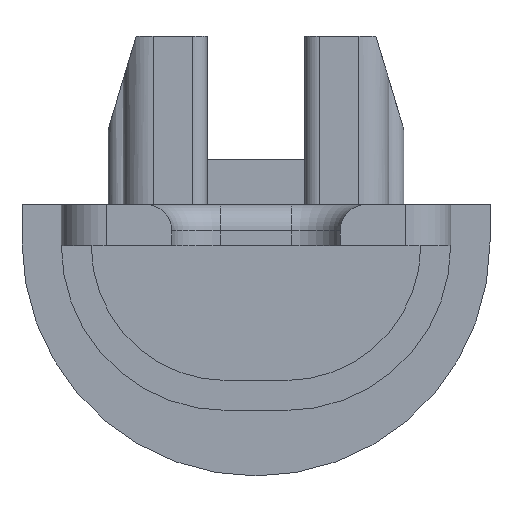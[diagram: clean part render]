
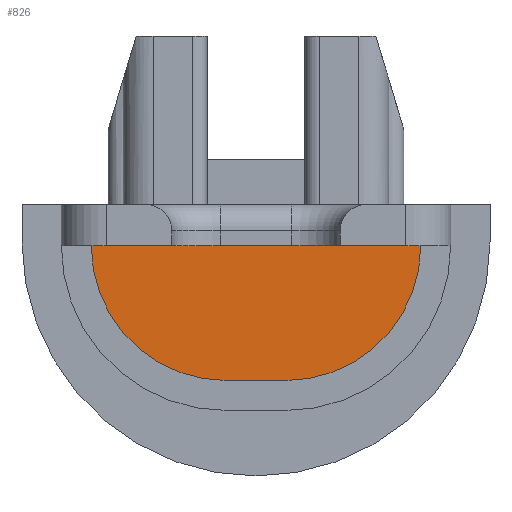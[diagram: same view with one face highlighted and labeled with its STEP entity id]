
A CAD part, front view. The second image highlights one B-rep face of the part: STEP entity #826.
In plain terms, the highlighted planar face has unit normal (0, -1, 0).
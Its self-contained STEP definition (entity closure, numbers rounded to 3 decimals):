
#44 = CARTESIAN_POINT ( 'NONE',  ( 0.8, -0.3, -4.7 ) ) ;
#136 = CIRCLE ( 'NONE', #1459, 3.6 ) ;
#152 = LINE ( 'NONE', #1812, #2170 ) ;
#153 = ORIENTED_EDGE ( 'NONE', *, *, #789, .T. ) ;
#190 = VERTEX_POINT ( 'NONE', #1057 ) ;
#335 = DIRECTION ( 'NONE',  ( -1., 0., 0. ) ) ;
#493 = EDGE_CURVE ( 'NONE', #2145, #190, #136, .T. ) ;
#553 = VECTOR ( 'NONE', #1234, 1000. ) ;
#554 = ORIENTED_EDGE ( 'NONE', *, *, #493, .T. ) ;
#597 = CIRCLE ( 'NONE', #2007, 3.6 ) ;
#758 = DIRECTION ( 'NONE',  ( 0., 0., -1. ) ) ;
#789 = EDGE_CURVE ( 'NONE', #2069, #810, #597, .T. ) ;
#810 = VERTEX_POINT ( 'NONE', #1301 ) ;
#826 = ADVANCED_FACE ( 'NONE', ( #1519 ), #1495, .T. ) ;
#835 = AXIS2_PLACEMENT_3D ( 'NONE', #1290, #1863, #2070 ) ;
#1057 = CARTESIAN_POINT ( 'NONE',  ( 4.4, -0.3, -1.1 ) ) ;
#1122 = EDGE_LOOP ( 'NONE', ( #554, #2395, #153, #1313 ) ) ;
#1157 = DIRECTION ( 'NONE',  ( 0., 0., -1. ) ) ;
#1234 = DIRECTION ( 'NONE',  ( 1., 0., 0. ) ) ;
#1290 = CARTESIAN_POINT ( 'NONE',  ( 0.8, -0.3, -1.1 ) ) ;
#1301 = CARTESIAN_POINT ( 'NONE',  ( -0.8, -0.3, -4.7 ) ) ;
#1313 = ORIENTED_EDGE ( 'NONE', *, *, #1873, .T. ) ;
#1459 = AXIS2_PLACEMENT_3D ( 'NONE', #1725, #1702, #1157 ) ;
#1468 = EDGE_CURVE ( 'NONE', #190, #2069, #152, .T. ) ;
#1495 = PLANE ( 'NONE',  #835 ) ;
#1519 = FACE_OUTER_BOUND ( 'NONE', #1122, .T. ) ;
#1627 = CARTESIAN_POINT ( 'NONE',  ( -0.8, -0.3, -4.7 ) ) ;
#1702 = DIRECTION ( 'NONE',  ( 0., -1., 0. ) ) ;
#1711 = CARTESIAN_POINT ( 'NONE',  ( -4.4, -0.3, -1.1 ) ) ;
#1725 = CARTESIAN_POINT ( 'NONE',  ( 0.8, -0.3, -1.1 ) ) ;
#1812 = CARTESIAN_POINT ( 'NONE',  ( 4.4, -0.3, -1.1 ) ) ;
#1863 = DIRECTION ( 'NONE',  ( 0., -1., 0. ) ) ;
#1872 = DIRECTION ( 'NONE',  ( 0., -1., 0. ) ) ;
#1873 = EDGE_CURVE ( 'NONE', #810, #2145, #2176, .T. ) ;
#1886 = CARTESIAN_POINT ( 'NONE',  ( -0.8, -0.3, -1.1 ) ) ;
#2007 = AXIS2_PLACEMENT_3D ( 'NONE', #1886, #1872, #758 ) ;
#2069 = VERTEX_POINT ( 'NONE', #1711 ) ;
#2070 = DIRECTION ( 'NONE',  ( 0., 0., -1. ) ) ;
#2145 = VERTEX_POINT ( 'NONE', #44 ) ;
#2170 = VECTOR ( 'NONE', #335, 1000. ) ;
#2176 = LINE ( 'NONE', #1627, #553 ) ;
#2395 = ORIENTED_EDGE ( 'NONE', *, *, #1468, .T. ) ;
